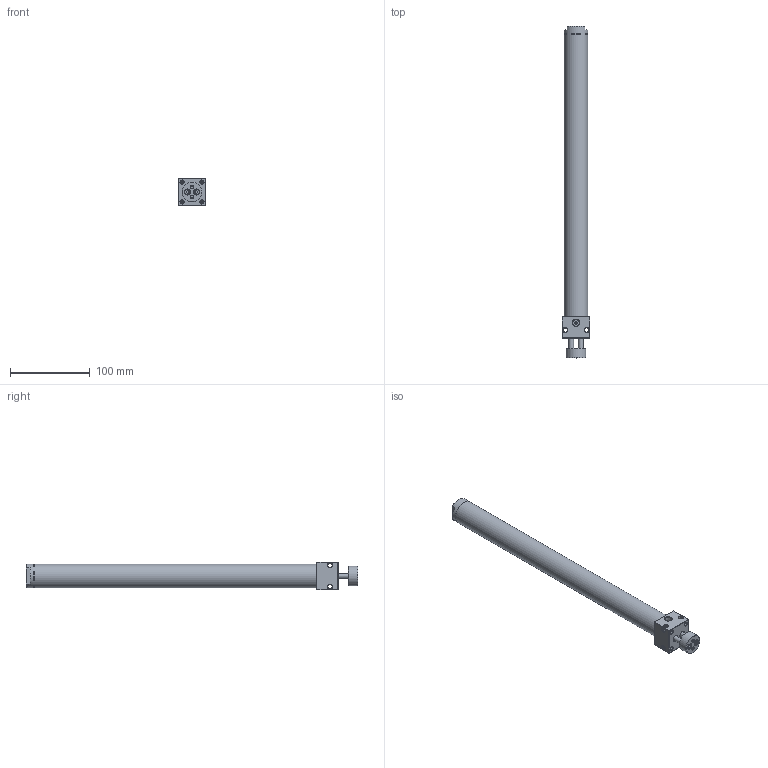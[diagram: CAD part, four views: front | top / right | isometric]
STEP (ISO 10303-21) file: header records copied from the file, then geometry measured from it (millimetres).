
FILE_DESCRIPTION((''),'2;1');
FILE_NAME('I:\3D電子目錄\氣缸\DBT\DBT\DBT25\DBT25x300.stp','2007-10-08T08:56:41',('Administrator'),(''),'Autodesk Inventor 2008','Autodesk Inventor 2008','');
FILE_SCHEMA(('AUTOMOTIVE_DESIGN { 1 0 10303 214 1 1 1 1 }'));
Length unit declared in the file: millimetre
Products named in the file (1): DBT25x300
Bounding box: 35 x 416 x 35 mm (x, y, z)
Volume: 123974.2 mm3; surface area: 81097 mm2
Topology: 1 solids, 5 shells, 172 faces, 396 edges, 239 vertices
Faces by surface type: plane 57, bspline 54, cone 38, cylinder 23
Full cylindrical faces by diameter (mm): 3 x1, 3.4 x1, 4 x1, 6 x3, 6.5 x1, 7 x1, 8 x1, 9 x1, 16 x1, 23.8 x2, 25 x2, 25.8 x2, 27 x2, 27.2 x2, 30 x2
Entity records: 5091 total; most frequent: CARTESIAN_POINT 1849, DIRECTION 622, ORIENTED_EDGE 548, EDGE_LOOP 308, EDGE_CURVE 274, AXIS2_PLACEMENT_3D 265, VERTEX_POINT 212, FACE_OUTER_BOUND 172
